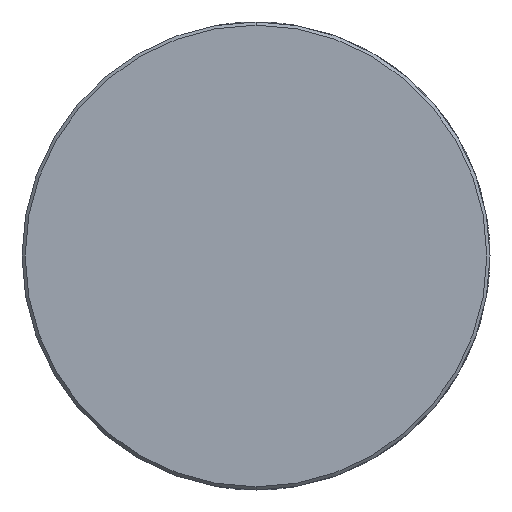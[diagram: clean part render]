
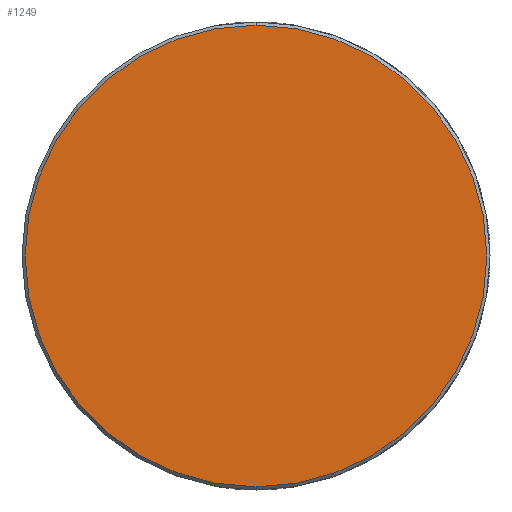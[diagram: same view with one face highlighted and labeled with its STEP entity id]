
A CAD part, front view. The second image highlights one B-rep face of the part: STEP entity #1249.
In plain terms, the highlighted planar face has unit normal (0, -1, 0).
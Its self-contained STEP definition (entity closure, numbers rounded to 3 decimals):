
#437=CARTESIAN_POINT('',(0.0,-139.348,36.0));
#438=VERTEX_POINT('',#437);
#447=CARTESIAN_POINT('',(0.0,-139.348,-36.0));
#448=VERTEX_POINT('',#447);
#449=CARTESIAN_POINT('',(0.0,-139.348,0.0));
#450=DIRECTION('',(0.0,-1.0,0.0));
#451=DIRECTION('',(0.0,0.0,1.0));
#452=AXIS2_PLACEMENT_3D('',#449,#450,#451);
#453=CIRCLE('',#452,36.0);
#454=EDGE_CURVE('no 1227',#448,#438,#453,.T.);
#1234=CARTESIAN_POINT('',(0.0,-139.348,0.0));
#1235=DIRECTION('',(0.0,-1.0,0.0));
#1236=DIRECTION('',(0.0,0.0,1.0));
#1237=AXIS2_PLACEMENT_3D('',#1234,#1235,#1236);
#1238=CIRCLE('',#1237,36.0);
#1239=EDGE_CURVE('no 1688',#438,#448,#1238,.T.);
#1240=ORIENTED_EDGE('',*,*,#1239,.T.);
#1241=ORIENTED_EDGE('',*,*,#454,.T.);
#1242=EDGE_LOOP('',(#1240,#1241));
#1243=FACE_OUTER_BOUND('',#1242,.T.);
#1244=CARTESIAN_POINT('',(36.5,-139.348,0.0));
#1245=DIRECTION('',(0.0,1.0,0.0));
#1246=DIRECTION('',(0.0,0.0,-1.0));
#1247=AXIS2_PLACEMENT_3D('',#1244,#1245,#1246);
#1248=PLANE('',#1247);
#1249=ADVANCED_FACE('no 1683',(#1243),#1248,.F.);
